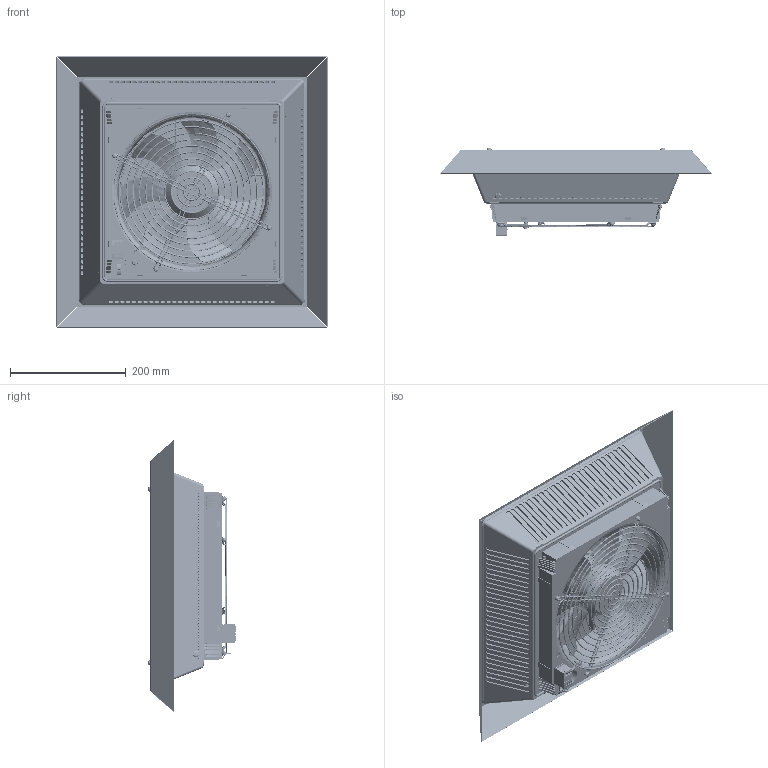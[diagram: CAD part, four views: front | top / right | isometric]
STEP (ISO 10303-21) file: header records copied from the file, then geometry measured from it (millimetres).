
FILE_DESCRIPTION (( 'STEP AP203' ), '1' );
FILE_NAME ('RFU7003R5_V1.STEP', '2013-02-08T10:31:43', ( '' ), ( '' ), 'SwSTEP 2.0', 'SolidWorks 2011', '' );
FILE_SCHEMA (( 'CONFIG_CONTROL_DESIGN' ));
Products named in the file (1): RFU7003R5_V1
Bounding box: 470 x 152.05 x 470 mm (x, y, z)
Volume: 3155315.5 mm3; surface area: 1647981.9 mm2
Topology: 78 solids, 78 shells, 9259 faces, 25049 edges, 16446 vertices
Faces by surface type: plane 5271, bspline 2448, cylinder 1121, cone 419
Entity records: 401410 total; most frequent: CARTESIAN_POINT 183561, ORIENTED_EDGE 49872, DIRECTION 36467, EDGE_CURVE 24936, VERTEX_POINT 16446, VECTOR 16407, LINE 16407, EDGE_LOOP 10288
